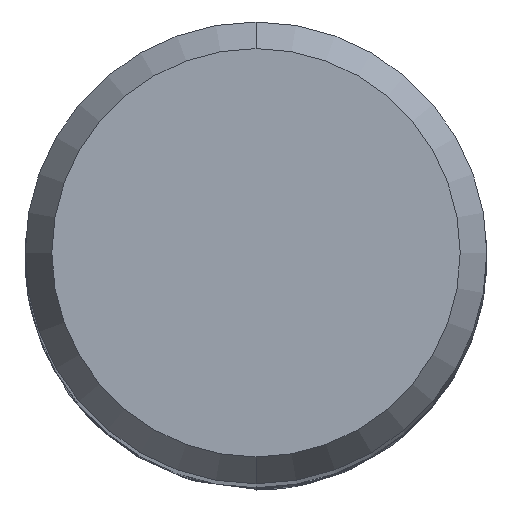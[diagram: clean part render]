
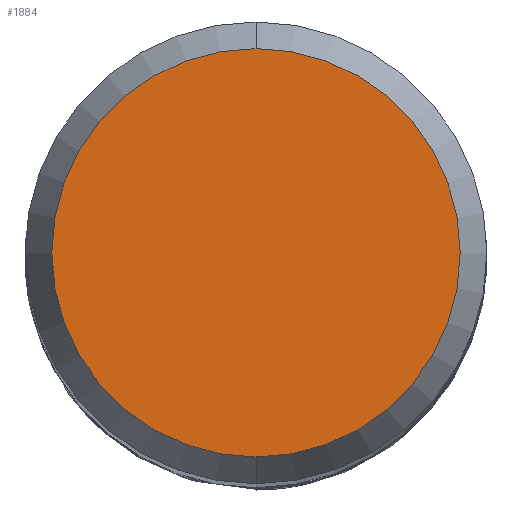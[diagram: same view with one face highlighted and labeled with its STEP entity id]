
A CAD part, top view. The second image highlights one B-rep face of the part: STEP entity #1884.
In plain terms, the highlighted planar face has unit normal (0, 0, 1).
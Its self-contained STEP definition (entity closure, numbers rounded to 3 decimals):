
#864=VERTEX_POINT('',#2299);
#876=EDGE_CURVE('',#2136,#864,#2311,.T.);
#1768=EDGE_CURVE('',#864,#2136,#3286,.T.);
#1884=ADVANCED_FACE('',(#3414),#3415,.T.);
#2136=VERTEX_POINT('',#3690);
#2299=CARTESIAN_POINT('',(0.,-3.538,0.0));
#2311=CIRCLE('',#4628,3.538);
#3286=CIRCLE('',#13914,3.538);
#3414=FACE_OUTER_BOUND('',#15227,.T.);
#3415=PLANE('',#15228);
#3690=CARTESIAN_POINT('',(0.0,3.538,0.0));
#4628=AXIS2_PLACEMENT_3D('',#19148,#19149,#19150);
#13914=AXIS2_PLACEMENT_3D('',#20177,#20178,#20179);
#15227=EDGE_LOOP('',(#20294,#20295));
#15228=AXIS2_PLACEMENT_3D('',#20296,#20297,#20298);
#19148=CARTESIAN_POINT('',(0.0,0.0,0.0));
#19149=DIRECTION('',(0.0,0.0,-1.0));
#19150=DIRECTION('',(0.0,1.0,0.0));
#20177=CARTESIAN_POINT('',(0.0,0.0,0.0));
#20178=DIRECTION('',(0.0,0.0,-1.0));
#20179=DIRECTION('',(0.0,1.0,0.0));
#20294=ORIENTED_EDGE('',*,*,#876,.F.);
#20295=ORIENTED_EDGE('',*,*,#1768,.F.);
#20296=CARTESIAN_POINT('',(0.0,1.769,0.0));
#20297=DIRECTION('',(-0.0,0.0,1.0));
#20298=DIRECTION('',(0.0,-1.0,0.0));
